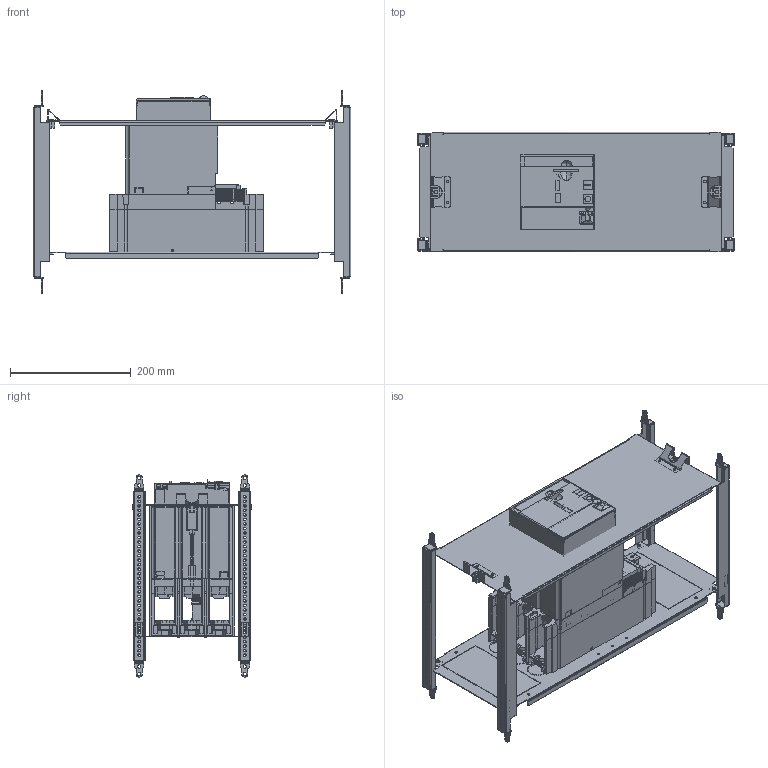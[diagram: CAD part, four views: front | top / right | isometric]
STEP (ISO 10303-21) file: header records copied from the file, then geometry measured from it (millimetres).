
FILE_DESCRIPTION(('CAx-IF Rec.Pracs.---Model Styling and Organization---1.2---2011-12-15','CAx-IF Rec.Pracs.---Geometric and Assembly Validation Properties---4.1---2014-06-16','CAx-IF Rec.Pracs.---PMI Polyline Presentation---2.0---2013-05-24'),'2;1');
FILE_NAME('R5PKIB7H61216 (F-MO).stp','2021-07-29T03:03:30+03:00',(''),(''),'STEP Interface 4.4 by CT CoreTechnologie','3D_Evolution4.4 by CT CoreTechnologie','');
FILE_SCHEMA(('AUTOMOTIVE_DESIGN { 1 0 10303 214 1 1 1 1 }'));
Length unit declared in the file: millimetre
Products named in the file (1): R5PKIB7H61216 (F-MO)
Bounding box: 526 x 198 x 335 mm (x, y, z)
Surface area: 1342434.2 mm2 (no closed solid volume)
Topology: 0 solids, 68 shells, 5389 faces, 16102 edges, 10780 vertices
Faces by surface type: plane 3528, cylinder 1709, bspline 152
Entity records: 184690 total; most frequent: CARTESIAN_POINT 36042, ORIENTED_EDGE 32122, DIRECTION 29823, EDGE_CURVE 16063, VECTOR 12447, LINE 12447, VERTEX_POINT 10801, AXIS2_PLACEMENT_3D 8688
